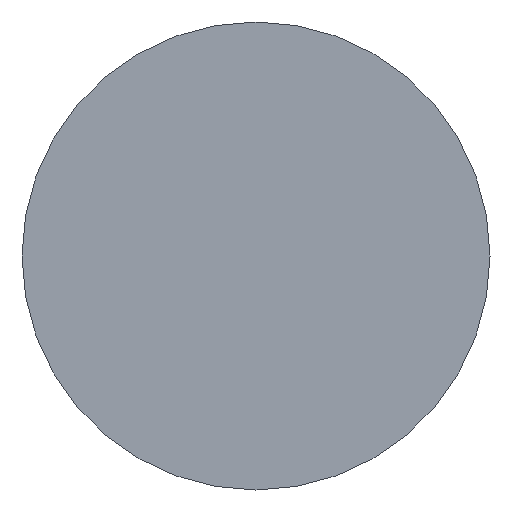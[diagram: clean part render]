
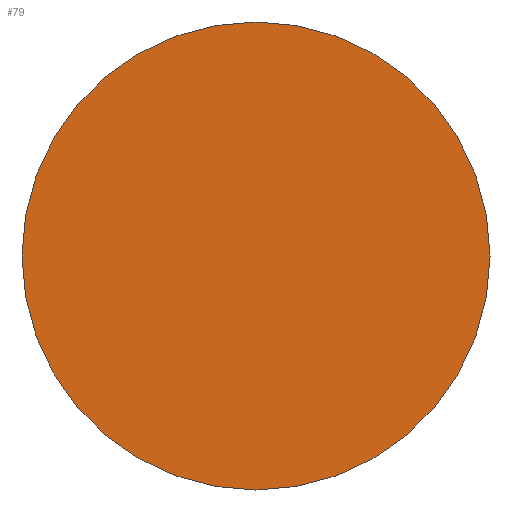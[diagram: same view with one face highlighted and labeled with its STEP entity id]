
A CAD part, front view. The second image highlights one B-rep face of the part: STEP entity #79.
In plain terms, the highlighted planar face has unit normal (0, -1, 0).
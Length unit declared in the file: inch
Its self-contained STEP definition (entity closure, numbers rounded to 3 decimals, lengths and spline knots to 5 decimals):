
#15=PLANE('',#105);
#23=FACE_OUTER_BOUND('',#27,.T.);
#27=EDGE_LOOP('',(#73,#74));
#35=CIRCLE('',#103,0.197);
#36=CIRCLE('',#104,0.197);
#43=VERTEX_POINT('',#176);
#44=VERTEX_POINT('',#177);
#52=EDGE_CURVE('',#43,#44,#35,.T.);
#53=EDGE_CURVE('',#44,#43,#36,.T.);
#73=ORIENTED_EDGE('',*,*,#52,.T.);
#74=ORIENTED_EDGE('',*,*,#53,.T.);
#79=ADVANCED_FACE('',(#23),#15,.T.);
#103=AXIS2_PLACEMENT_3D('',#178,#126,#127);
#104=AXIS2_PLACEMENT_3D('',#179,#128,#129);
#105=AXIS2_PLACEMENT_3D('',#181,#131,#132);
#126=DIRECTION('center_axis',(0.,-1.,0.));
#127=DIRECTION('ref_axis',(1.,0.,0.));
#128=DIRECTION('center_axis',(0.,-1.,0.));
#129=DIRECTION('ref_axis',(1.,0.,0.));
#131=DIRECTION('center_axis',(0.,-1.,0.));
#132=DIRECTION('ref_axis',(0.,0.,-1.));
#176=CARTESIAN_POINT('',(0.197,0.,0.));
#177=CARTESIAN_POINT('',(-0.197,0.,0.));
#178=CARTESIAN_POINT('Origin',(0.,0.,0.));
#179=CARTESIAN_POINT('Origin',(0.,0.,0.));
#181=CARTESIAN_POINT('Origin',(0.,0.,0.));
